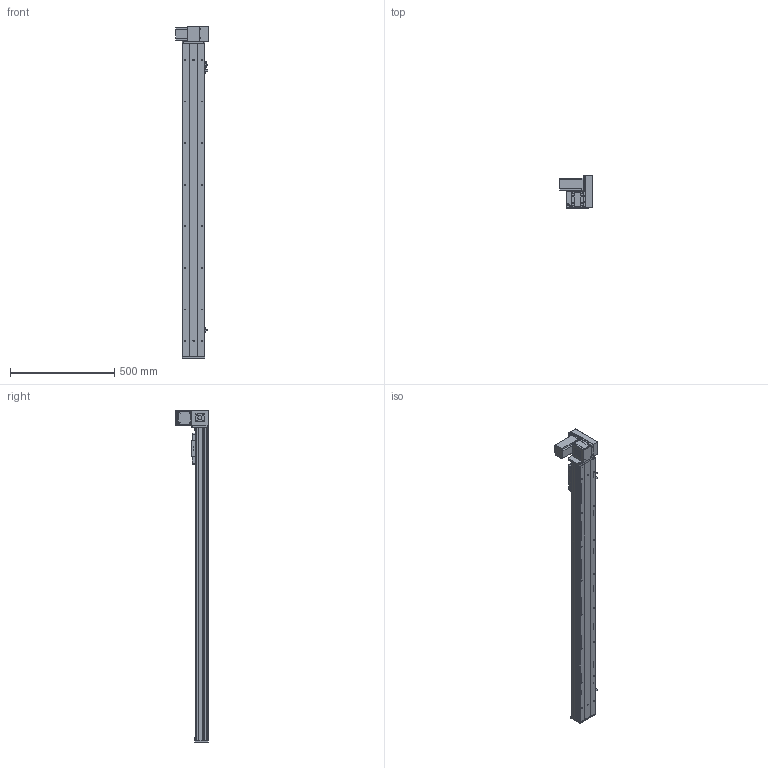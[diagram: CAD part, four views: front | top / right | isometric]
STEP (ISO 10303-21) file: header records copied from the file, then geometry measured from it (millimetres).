
FILE_DESCRIPTION (( 'STEP AP203' ), '1' );
FILE_NAME ('Y10CB-D90-S1250-UR-P400W.STEP', '2020-02-16T03:35:59', ( '微软用户' ), ( '微软中国' ), 'SwSTEP 2.0', 'SolidWorks 2017', '' );
FILE_SCHEMA (( 'CONFIG_CONTROL_DESIGN' ));
Length unit declared in the file: millimetre
Products named in the file (18): Y10B--々湍喘謫眊--666; 0B-埴倛裔啣; Y10B-耜蚾蟀諉啣----; 10CB-詩湍-; 00B-俋欶BM--; Y10CB- 掛极耜裔啣-毀---; 0CB-雄赽釱---; Y10CB-D90-S1250-UR-P400W; Y10C---詩湍揤啣; 0Cb-俋欶---; 10CB9-掛极; Y10B-々湍喘謫眊楊擘啣--; 10CB-耜裔; 0B-萇儂楊擘啣; Y135C-陔俋离換覜結え-; san松下电机400不带刹车----; Y100-135俋离換覜ん--; 0B-源倛裔啣
Assembly tree (21 placements, depth 2):
  Y10CB-D90-S1250-UR-P400W
    0CB-雄赽釱---
    0Cb-俋欶---
    Y10B-々湍喘謫眊楊擘啣--
    0B-萇儂楊擘啣
    san松下电机400不带刹车----
    0B-源倛裔啣
    0B-埴倛裔啣
    10CB-詩湍-
    Y10CB- 掛极耜裔啣-毀---  x2
    Y10C---詩湍揤啣  x2
    10CB9-掛极
    10CB-耜裔
    Y135C-陔俋离換覜結え-
    Y100-135俋离換覜ん--  x3
    Y10B--々湍喘謫眊--666
    Y10B-耜蚾蟀諉啣----
    00B-俋欶BM--
Bounding box: 157 x 155.5 x 1596 mm (x, y, z)
Volume: 3572213.2 mm3; surface area: 1631601.4 mm2
Topology: 21 solids, 21 shells, 1002 faces, 2683 edges, 1754 vertices
Faces by surface type: cylinder 499, plane 479, cone 24
Entity records: 31412 total; most frequent: CARTESIAN_POINT 5617, DIRECTION 5066, ORIENTED_EDGE 4836, EDGE_CURVE 2418, AXIS2_PLACEMENT_3D 1813, VERTEX_POINT 1580, LINE 1440, VECTOR 1440
